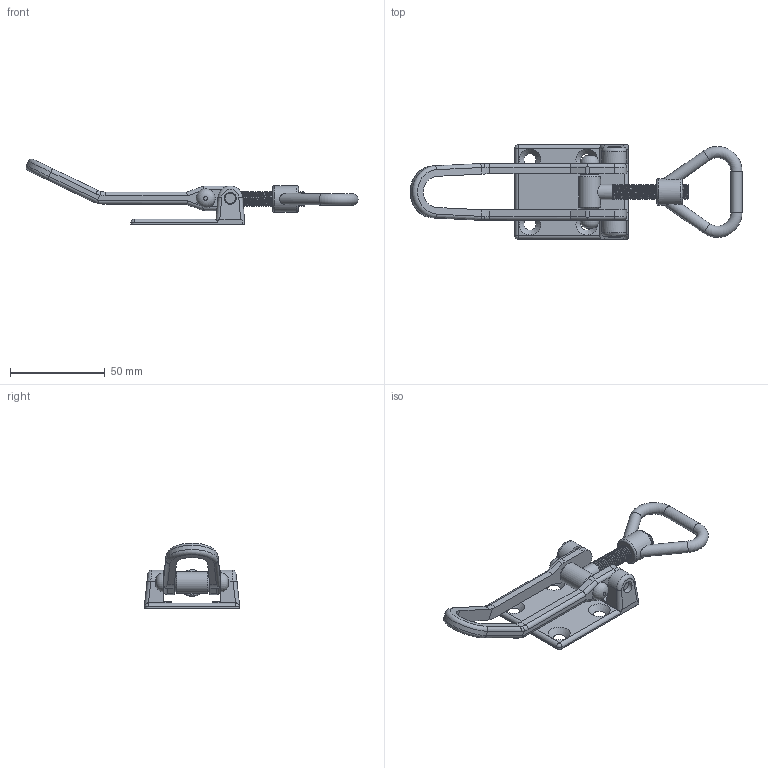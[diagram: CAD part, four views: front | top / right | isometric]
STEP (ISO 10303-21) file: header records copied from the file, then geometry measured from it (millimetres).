
FILE_DESCRIPTION(/* description */ ('Unknown'),/* implementation_level */ '2;1');
FILE_NAME(/* name */ '3923.01.04',/* time_stamp */ '2025-09-09T08:12:33+02:00',/* author */ ('Unknown'),/* organization */ ('Unknown'),/* preprocessor_version */ 'ST-DEVELOPER v16.7',/* originating_system */ 'DEX',/* authorisation */ $);
FILE_SCHEMA (('AUTOMOTIVE_DESIGN {1 0 10303 214 3 1 1}'));
Length unit declared in the file: millimetre
Products named in the file (6): 3923.01.04; Grundplatte; Griff; Gewindebolzen; Stift; Halter
Assembly tree (5 placements, depth 2):
  3923.01.04
    Grundplatte
    Griff
    Gewindebolzen
    Stift
    Halter
Bounding box: 175.27 x 50 x 34.68 mm (x, y, z)
Volume: 30544.2 mm3; surface area: 21027.6 mm2
Topology: 5 solids, 5 shells, 184 faces, 481 edges, 308 vertices
Faces by surface type: cylinder 96, plane 52, torus 18, bspline 10, cone 6, sphere 2
Full cylindrical faces by diameter (mm): 6 x6, 6.2 x2, 6.5 x3, 6.8 x1, 8 x32, 11.5 x1, 14 x1
Entity records: 11336 total; most frequent: CARTESIAN_POINT 7712, DIRECTION 744, ORIENTED_EDGE 676, EDGE_CURVE 338, AXIS2_PLACEMENT_3D 301, VERTEX_POINT 228, EDGE_LOOP 206, FACE_BOUND 206
